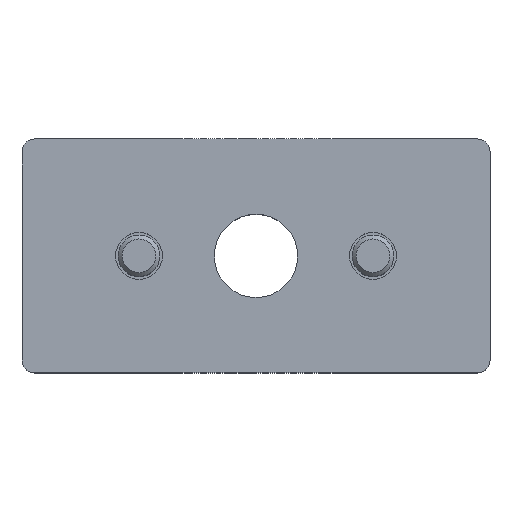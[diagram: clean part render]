
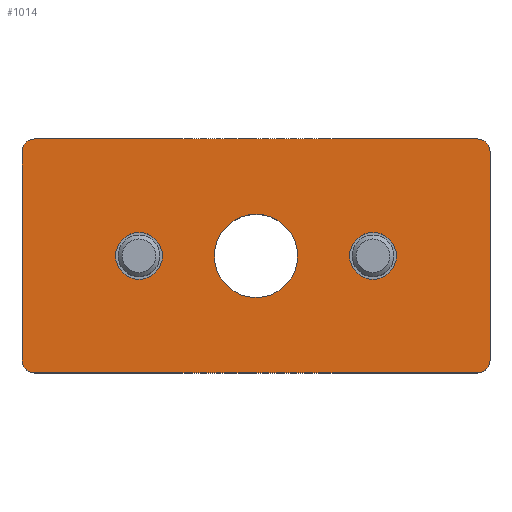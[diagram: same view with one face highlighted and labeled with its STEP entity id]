
A CAD part, top view. The second image highlights one B-rep face of the part: STEP entity #1014.
In plain terms, the highlighted planar face has unit normal (0, 0, 1).
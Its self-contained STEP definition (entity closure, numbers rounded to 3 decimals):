
#569=CARTESIAN_POINT('',(45.,-20.0,15.0));
#570=VERTEX_POINT('',#569);
#577=CARTESIAN_POINT('',(42.5,-22.5,15.0));
#578=VERTEX_POINT('',#577);
#579=CARTESIAN_POINT('',(42.5,-20.0,15.0));
#580=DIRECTION('',(0.0,0.0,-1.0));
#581=DIRECTION('',(0.0,-1.0,0.0));
#582=AXIS2_PLACEMENT_3D('',#579,#580,#581);
#583=CIRCLE('',#582,2.5);
#584=EDGE_CURVE('',#570,#578,#583,.T.);
#601=CARTESIAN_POINT('',(45.,20.0,15.0));
#602=VERTEX_POINT('',#601);
#609=CARTESIAN_POINT('',(45.,20.0,15.0));
#610=DIRECTION('',(0.0,-1.0,0.0));
#611=VECTOR('',#610,40.0);
#612=LINE('',#609,#611);
#613=EDGE_CURVE('',#602,#570,#612,.T.);
#625=CARTESIAN_POINT('',(42.5,22.5,15.0));
#626=VERTEX_POINT('',#625);
#633=CARTESIAN_POINT('',(42.5,20.0,15.0));
#634=DIRECTION('',(0.0,0.0,-1.0));
#635=DIRECTION('',(1.0,0.0,0.0));
#636=AXIS2_PLACEMENT_3D('',#633,#634,#635);
#637=CIRCLE('',#636,2.5);
#638=EDGE_CURVE('',#626,#602,#637,.T.);
#650=CARTESIAN_POINT('',(-42.5,22.5,15.0));
#651=VERTEX_POINT('',#650);
#658=CARTESIAN_POINT('',(-42.5,22.5,15.0));
#659=DIRECTION('',(1.0,0.0,0.0));
#660=VECTOR('',#659,85.0);
#661=LINE('',#658,#660);
#662=EDGE_CURVE('',#651,#626,#661,.T.);
#844=CARTESIAN_POINT('',(8.0,0.,15.0));
#845=VERTEX_POINT('',#844);
#846=CARTESIAN_POINT('',(0.0,0.0,15.0));
#847=DIRECTION('',(0.0,0.0,-1.0));
#848=DIRECTION('',(-1.0,0.0,0.0));
#849=AXIS2_PLACEMENT_3D('',#846,#847,#848);
#850=CIRCLE('',#849,8.0);
#851=EDGE_CURVE('',#845,#845,#850,.T.);
#867=CARTESIAN_POINT('',(27.0,0.,15.0));
#868=VERTEX_POINT('',#867);
#869=CARTESIAN_POINT('',(22.5,0.0,15.0));
#870=DIRECTION('',(0.0,0.0,-1.0));
#871=DIRECTION('',(-1.0,0.0,0.0));
#872=AXIS2_PLACEMENT_3D('',#869,#870,#871);
#873=CIRCLE('',#872,4.5);
#874=EDGE_CURVE('',#868,#868,#873,.T.);
#887=CARTESIAN_POINT('',(-18.0,0.,15.0));
#888=VERTEX_POINT('',#887);
#889=CARTESIAN_POINT('',(-22.5,0.0,15.0));
#890=DIRECTION('',(0.0,0.0,-1.0));
#891=DIRECTION('',(-1.0,0.0,0.0));
#892=AXIS2_PLACEMENT_3D('',#889,#890,#891);
#893=CIRCLE('',#892,4.5);
#894=EDGE_CURVE('',#888,#888,#893,.T.);
#906=CARTESIAN_POINT('',(-42.5,-22.5,15.0));
#907=VERTEX_POINT('',#906);
#908=CARTESIAN_POINT('',(42.5,-22.5,15.0));
#909=DIRECTION('',(-1.0,0.0,0.0));
#910=VECTOR('',#909,85.0);
#911=LINE('',#908,#910);
#912=EDGE_CURVE('',#578,#907,#911,.T.);
#930=CARTESIAN_POINT('',(-45.,-20.0,15.0));
#931=VERTEX_POINT('',#930);
#932=CARTESIAN_POINT('',(-42.5,-20.0,15.0));
#933=DIRECTION('',(0.0,0.0,-1.0));
#934=DIRECTION('',(-1.0,0.0,0.0));
#935=AXIS2_PLACEMENT_3D('',#932,#933,#934);
#936=CIRCLE('',#935,2.5);
#937=EDGE_CURVE('',#907,#931,#936,.T.);
#955=CARTESIAN_POINT('',(-45.,20.0,15.0));
#956=VERTEX_POINT('',#955);
#957=CARTESIAN_POINT('',(-45.,-20.0,15.0));
#958=DIRECTION('',(0.0,1.0,0.0));
#959=VECTOR('',#958,40.0);
#960=LINE('',#957,#959);
#961=EDGE_CURVE('',#931,#956,#960,.T.);
#979=CARTESIAN_POINT('',(-42.5,20.0,15.0));
#980=DIRECTION('',(0.0,0.0,-1.0));
#981=DIRECTION('',(0.0,1.0,0.0));
#982=AXIS2_PLACEMENT_3D('',#979,#980,#981);
#983=CIRCLE('',#982,2.5);
#984=EDGE_CURVE('',#956,#651,#983,.T.);
#990=CARTESIAN_POINT('',(0.,0.,15.0));
#991=DIRECTION('',(0.0,0.0,1.0));
#992=DIRECTION('',(1.0,0.0,0.0));
#993=AXIS2_PLACEMENT_3D('',#990,#991,#992);
#994=PLANE('',#993);
#995=ORIENTED_EDGE('',*,*,#662,.F.);
#996=ORIENTED_EDGE('',*,*,#984,.F.);
#997=ORIENTED_EDGE('',*,*,#961,.F.);
#998=ORIENTED_EDGE('',*,*,#937,.F.);
#999=ORIENTED_EDGE('',*,*,#912,.F.);
#1000=ORIENTED_EDGE('',*,*,#584,.F.);
#1001=ORIENTED_EDGE('',*,*,#613,.F.);
#1002=ORIENTED_EDGE('',*,*,#638,.F.);
#1003=EDGE_LOOP('',(#995,#996,#997,#998,#999,#1000,#1001,#1002));
#1004=FACE_OUTER_BOUND('',#1003,.T.);
#1005=ORIENTED_EDGE('',*,*,#851,.T.);
#1006=EDGE_LOOP('',(#1005));
#1007=FACE_BOUND('',#1006,.T.);
#1008=ORIENTED_EDGE('',*,*,#874,.T.);
#1009=EDGE_LOOP('',(#1008));
#1010=FACE_BOUND('',#1009,.T.);
#1011=ORIENTED_EDGE('',*,*,#894,.T.);
#1012=EDGE_LOOP('',(#1011));
#1013=FACE_BOUND('',#1012,.T.);
#1014=ADVANCED_FACE('',(#1004,#1007,#1010,#1013),#994,.T.);
